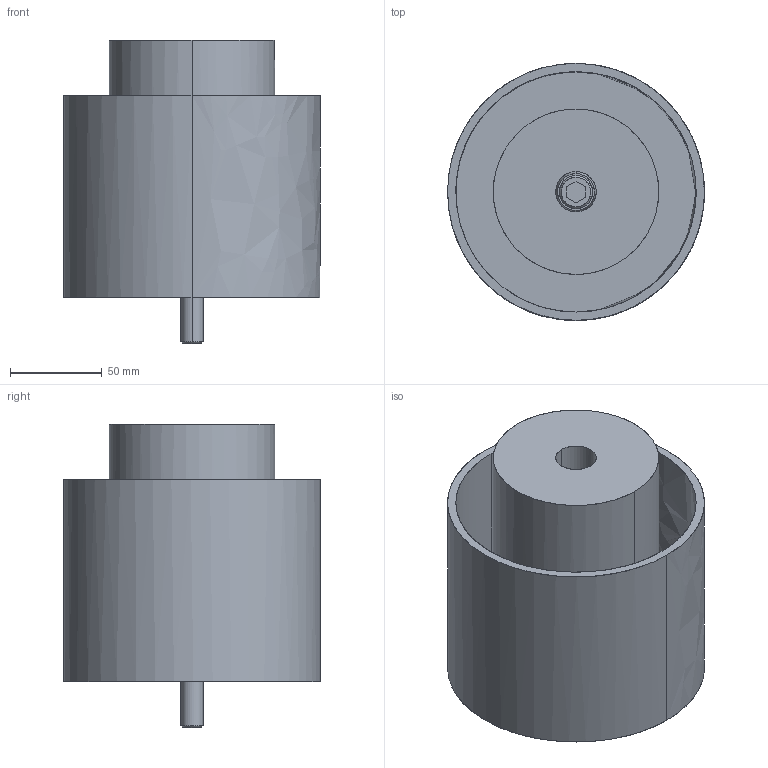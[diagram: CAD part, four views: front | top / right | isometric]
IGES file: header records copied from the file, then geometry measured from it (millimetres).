
Global section: file name: E:\UnigraphicsGraphicData\MISUMI_PRESS-PARTS\IGES\3d_phubn90-140-110-r_07090_r00.igs; native system: NX V5.0; preprocessor: UGS NX IGES V5.0; author: MISUMI; date: 20110105.162255; units: millimetre
Bounding box: 139.8 x 139.8 x 165 mm (x, y, z)
Surface area: 191610.8 mm2 (no closed solid volume)
Topology: 0 solids, 0 shells, 49 faces, 380 edges, 380 vertices
Faces by surface type: bspline 49
